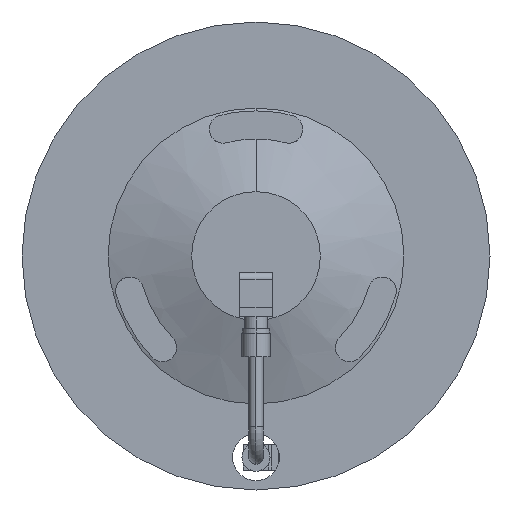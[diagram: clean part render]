
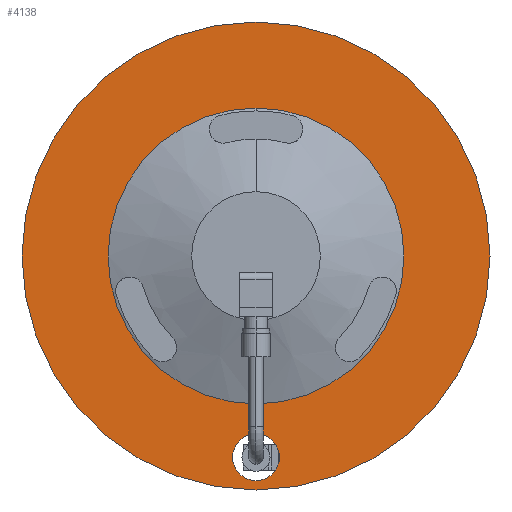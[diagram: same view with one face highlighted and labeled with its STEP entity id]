
A CAD part, front view. The second image highlights one B-rep face of the part: STEP entity #4138.
In plain terms, the highlighted planar face has unit normal (0, -1, 0).
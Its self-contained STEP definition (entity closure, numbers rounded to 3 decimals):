
#59 = DIRECTION ( 'NONE',  ( 0., 0., -1. ) ) ;
#139 = CIRCLE ( 'NONE', #7880, 10. ) ;
#314 = FACE_BOUND ( 'NONE', #5398, .T. ) ;
#319 = CARTESIAN_POINT ( 'NONE',  ( 0., -129.3, 63.217 ) ) ;
#375 = CIRCLE ( 'NONE', #3900, 10. ) ;
#1380 = ORIENTED_EDGE ( 'NONE', *, *, #6545, .F. ) ;
#1395 = EDGE_CURVE ( 'NONE', #12646, #6269, #6432, .T. ) ;
#1504 = CARTESIAN_POINT ( 'NONE',  ( -100., -129.3, 0. ) ) ;
#1578 = FACE_OUTER_BOUND ( 'NONE', #11146, .T. ) ;
#1655 = DIRECTION ( 'NONE',  ( 0., -1., 0. ) ) ;
#2338 = DIRECTION ( 'NONE',  ( 0., -1., 0. ) ) ;
#2349 = CARTESIAN_POINT ( 'NONE',  ( 0., -129.3, -100. ) ) ;
#2662 = DIRECTION ( 'NONE',  ( 0., 0., -1. ) ) ;
#2675 = FACE_BOUND ( 'NONE', #5372, .T. ) ;
#3322 = EDGE_CURVE ( 'NONE', #6211, #10048, #139, .T. ) ;
#3366 = CARTESIAN_POINT ( 'NONE',  ( 0., -129.3, 0. ) ) ;
#3444 = DIRECTION ( 'NONE',  ( 0., 0., -1. ) ) ;
#3511 = VERTEX_POINT ( 'NONE', #2349 ) ;
#3559 = DIRECTION ( 'NONE',  ( 0., 1., 0. ) ) ;
#3729 = EDGE_CURVE ( 'NONE', #6269, #12646, #4157, .T. ) ;
#3873 = VERTEX_POINT ( 'NONE', #4055 ) ;
#3900 = AXIS2_PLACEMENT_3D ( 'NONE', #6934, #5601, #2662 ) ;
#3910 = DIRECTION ( 'NONE',  ( 0., 0., -1. ) ) ;
#3938 = AXIS2_PLACEMENT_3D ( 'NONE', #12045, #1655, #3444 ) ;
#4021 = AXIS2_PLACEMENT_3D ( 'NONE', #3366, #2338, #59 ) ;
#4055 = CARTESIAN_POINT ( 'NONE',  ( 0., -129.3, 100. ) ) ;
#4072 = ORIENTED_EDGE ( 'NONE', *, *, #3729, .F. ) ;
#4138 = ADVANCED_FACE ( 'NONE', ( #2675, #314, #1578 ), #6883, .T. ) ;
#4157 = CIRCLE ( 'NONE', #3938, 63.217 ) ;
#4271 = EDGE_CURVE ( 'NONE', #3873, #3511, #5817, .T. ) ;
#5372 = EDGE_LOOP ( 'NONE', ( #8764, #12852 ) ) ;
#5398 = EDGE_LOOP ( 'NONE', ( #8921, #4072 ) ) ;
#5601 = DIRECTION ( 'NONE',  ( 0., -1., 0. ) ) ;
#5701 = DIRECTION ( 'NONE',  ( 0., 0., -1. ) ) ;
#5754 = DIRECTION ( 'NONE',  ( 0., 0., 1. ) ) ;
#5817 = CIRCLE ( 'NONE', #10701, 100. ) ;
#6211 = VERTEX_POINT ( 'NONE', #7357 ) ;
#6269 = VERTEX_POINT ( 'NONE', #13585 ) ;
#6432 = CIRCLE ( 'NONE', #4021, 63.217 ) ;
#6501 = DIRECTION ( 'NONE',  ( 0., 0., 1. ) ) ;
#6545 = EDGE_CURVE ( 'NONE', #3511, #3873, #8083, .T. ) ;
#6883 = PLANE ( 'NONE',  #9031 ) ;
#6934 = CARTESIAN_POINT ( 'NONE',  ( 0., -129.3, -86. ) ) ;
#7154 = DIRECTION ( 'NONE',  ( 0., -1., 0. ) ) ;
#7357 = CARTESIAN_POINT ( 'NONE',  ( 0., -129.3, -76. ) ) ;
#7747 = CARTESIAN_POINT ( 'NONE',  ( 0., -129.3, -96. ) ) ;
#7880 = AXIS2_PLACEMENT_3D ( 'NONE', #7931, #7154, #3910 ) ;
#7931 = CARTESIAN_POINT ( 'NONE',  ( 0., -129.3, -86. ) ) ;
#8083 = CIRCLE ( 'NONE', #11193, 100. ) ;
#8764 = ORIENTED_EDGE ( 'NONE', *, *, #3322, .F. ) ;
#8921 = ORIENTED_EDGE ( 'NONE', *, *, #1395, .F. ) ;
#9031 = AXIS2_PLACEMENT_3D ( 'NONE', #1504, #12904, #5701 ) ;
#9599 = ORIENTED_EDGE ( 'NONE', *, *, #4271, .F. ) ;
#9711 = EDGE_CURVE ( 'NONE', #10048, #6211, #375, .T. ) ;
#10048 = VERTEX_POINT ( 'NONE', #7747 ) ;
#10701 = AXIS2_PLACEMENT_3D ( 'NONE', #11798, #3559, #6501 ) ;
#11047 = CARTESIAN_POINT ( 'NONE',  ( 0., -129.3, 0. ) ) ;
#11146 = EDGE_LOOP ( 'NONE', ( #9599, #1380 ) ) ;
#11193 = AXIS2_PLACEMENT_3D ( 'NONE', #11047, #12279, #5754 ) ;
#11798 = CARTESIAN_POINT ( 'NONE',  ( 0., -129.3, 0. ) ) ;
#12045 = CARTESIAN_POINT ( 'NONE',  ( 0., -129.3, 0. ) ) ;
#12279 = DIRECTION ( 'NONE',  ( 0., 1., 0. ) ) ;
#12646 = VERTEX_POINT ( 'NONE', #319 ) ;
#12852 = ORIENTED_EDGE ( 'NONE', *, *, #9711, .F. ) ;
#12904 = DIRECTION ( 'NONE',  ( 0., -1., 0. ) ) ;
#13585 = CARTESIAN_POINT ( 'NONE',  ( 0., -129.3, -63.217 ) ) ;
